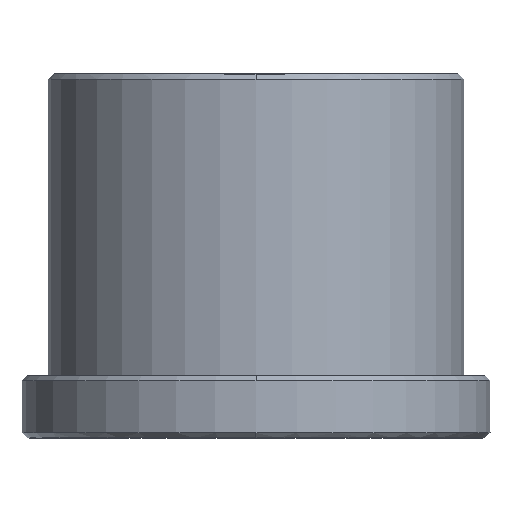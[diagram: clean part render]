
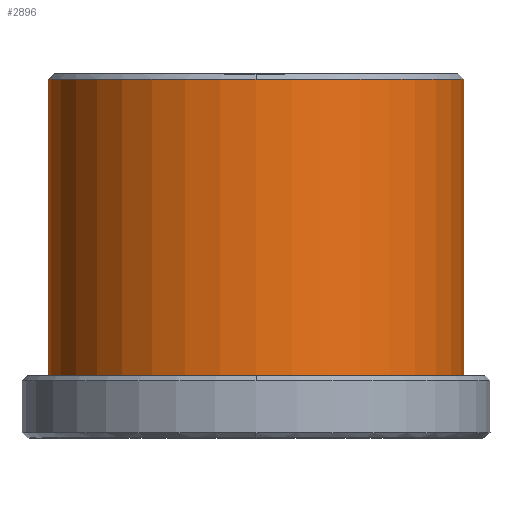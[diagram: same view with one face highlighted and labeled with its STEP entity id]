
A CAD part, front view. The second image highlights one B-rep face of the part: STEP entity #2896.
In plain terms, the highlighted cylindrical face has radius 20 mm (diameter 40 mm), a partial arc.
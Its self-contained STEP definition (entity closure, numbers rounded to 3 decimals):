
#2695=CARTESIAN_POINT('Vertex',(20.,0.,34.5)) ;
#2719=CARTESIAN_POINT('Vertex',(-20.,0.,34.5)) ;
#2743=CARTESIAN_POINT('Vertex',(0.,-20.,34.5)) ;
#2746=CARTESIAN_POINT('Axis2P3D Location',(0.,0.,34.5)) ;
#2763=CARTESIAN_POINT('Axis2P3D Location',(0.,0.,34.5)) ;
#2852=CARTESIAN_POINT('Line Origine',(20.,0.,-1.75)) ;
#2856=CARTESIAN_POINT('Vertex',(20.,0.,6.)) ;
#2863=CARTESIAN_POINT('Vertex',(-20.,0.,6.)) ;
#2866=CARTESIAN_POINT('Line Origine',(-20.,0.,-1.75)) ;
#2879=CARTESIAN_POINT('Axis2P3D Location',(0.,0.,-1.75)) ;
#2884=CARTESIAN_POINT('Axis2P3D Location',(0.,0.,6.)) ;
#2747=DIRECTION('Axis2P3D Direction',(0.,0.,-1.)) ;
#2764=DIRECTION('Axis2P3D Direction',(0.,0.,-1.)) ;
#2853=DIRECTION('Vector Direction',(0.,0.,1.)) ;
#2867=DIRECTION('Vector Direction',(0.,0.,1.)) ;
#2880=DIRECTION('Axis2P3D Direction',(0.,0.,1.)) ;
#2881=DIRECTION('Axis2P3D XDirection',(-1.,0.,0.)) ;
#2885=DIRECTION('Axis2P3D Direction',(0.,0.,1.)) ;
#2748=AXIS2_PLACEMENT_3D('Circle Axis2P3D',#2746,#2747,$) ;
#2765=AXIS2_PLACEMENT_3D('Circle Axis2P3D',#2763,#2764,$) ;
#2882=AXIS2_PLACEMENT_3D('Cylinder Axis2P3D',#2879,#2880,#2881) ;
#2886=AXIS2_PLACEMENT_3D('Circle Axis2P3D',#2884,#2885,$) ;
#2890=ORIENTED_EDGE('',*,*,#2870,.T.) ;
#2891=ORIENTED_EDGE('',*,*,#2888,.F.) ;
#2892=ORIENTED_EDGE('',*,*,#2858,.F.) ;
#2893=ORIENTED_EDGE('',*,*,#2767,.T.) ;
#2894=ORIENTED_EDGE('',*,*,#2750,.T.) ;
#2854=VECTOR('Line Direction',#2853,1.) ;
#2868=VECTOR('Line Direction',#2867,1.) ;
#2896=ADVANCED_FACE('MANIFOLD_SOLID_BREP #2272',(#2895),#2883,.T.) ;
#2749=CIRCLE('generated circle',#2748,20.) ;
#2766=CIRCLE('generated circle',#2765,20.) ;
#2887=CIRCLE('generated circle',#2886,20.) ;
#2883=CYLINDRICAL_SURFACE('generated cylinder',#2882,20.) ;
#2750=EDGE_CURVE('',#2744,#2720,#2749,.T.) ;
#2767=EDGE_CURVE('',#2696,#2744,#2766,.T.) ;
#2858=EDGE_CURVE('',#2696,#2857,#2855,.F.) ;
#2870=EDGE_CURVE('',#2720,#2864,#2869,.F.) ;
#2888=EDGE_CURVE('',#2857,#2864,#2887,.F.) ;
#2889=EDGE_LOOP('',(#2890,#2891,#2892,#2893,#2894)) ;
#2895=FACE_OUTER_BOUND('',#2889,.T.) ;
#2855=LINE('Line',#2852,#2854) ;
#2869=LINE('Line',#2866,#2868) ;
#2696=VERTEX_POINT('',#2695) ;
#2720=VERTEX_POINT('',#2719) ;
#2744=VERTEX_POINT('',#2743) ;
#2857=VERTEX_POINT('',#2856) ;
#2864=VERTEX_POINT('',#2863) ;
